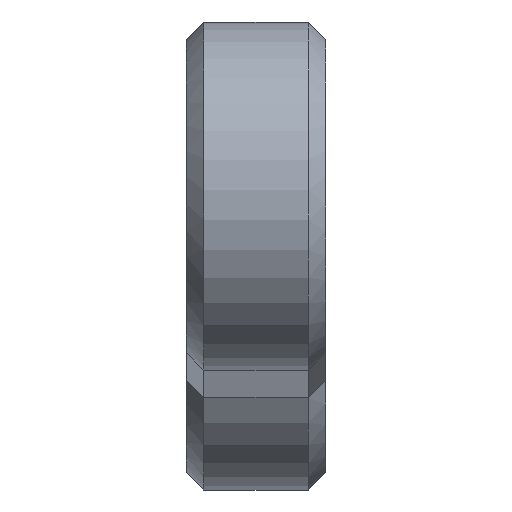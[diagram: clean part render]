
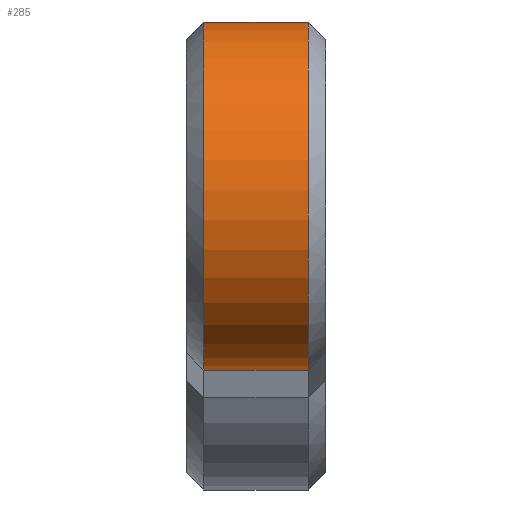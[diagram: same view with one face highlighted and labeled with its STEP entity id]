
A CAD part, top view. The second image highlights one B-rep face of the part: STEP entity #285.
In plain terms, the highlighted cylindrical face has radius 10 mm (diameter 20 mm), a partial arc.
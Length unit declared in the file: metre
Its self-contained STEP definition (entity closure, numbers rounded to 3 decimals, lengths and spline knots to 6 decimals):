
#24=LINE('',#479,#36);
#31=LINE('',#511,#43);
#36=VECTOR('',#383,1.);
#43=VECTOR('',#406,1.);
#54=CYLINDRICAL_SURFACE('',#331,0.01);
#106=ORIENTED_EDGE('',*,*,#159,.F.);
#107=ORIENTED_EDGE('',*,*,#145,.T.);
#108=ORIENTED_EDGE('',*,*,#142,.F.);
#109=ORIENTED_EDGE('',*,*,#158,.T.);
#142=EDGE_CURVE('',#175,#176,#196,.T.);
#145=EDGE_CURVE('',#177,#176,#24,.T.);
#158=EDGE_CURVE('',#175,#185,#31,.T.);
#159=EDGE_CURVE('',#177,#185,#201,.T.);
#175=VERTEX_POINT('',#464);
#176=VERTEX_POINT('',#471);
#177=VERTEX_POINT('',#480);
#185=VERTEX_POINT('',#510);
#196=CIRCLE('',#320,0.01);
#201=CIRCLE('',#332,0.01);
#224=EDGE_LOOP('',(#106,#107,#108,#109));
#254=FACE_BOUND('',#224,.T.);
#285=ADVANCED_FACE('',(#254),#54,.T.);
#320=AXIS2_PLACEMENT_3D('',#470,#376,#377);
#331=AXIS2_PLACEMENT_3D('',#512,#407,#408);
#332=AXIS2_PLACEMENT_3D('',#513,#409,#410);
#376=DIRECTION('',(-1.,0.,0.));
#377=DIRECTION('',(0.,-0.53,-0.848));
#383=DIRECTION('',(-1.,0.,0.));
#406=DIRECTION('',(1.,0.,0.));
#407=DIRECTION('',(-1.,0.,0.));
#408=DIRECTION('',(0.,0.999,-0.035));
#409=DIRECTION('',(1.,0.,0.));
#410=DIRECTION('',(0.,-0.999,0.035));
#464=CARTESIAN_POINT('',(0.102,0.019516,-0.550242));
#470=CARTESIAN_POINT('',(0.102,0.024816,-0.541762));
#471=CARTESIAN_POINT('',(0.102,0.02951,-0.550591));
#479=CARTESIAN_POINT('',(0.108,0.02951,-0.550591));
#480=CARTESIAN_POINT('',(0.108,0.02951,-0.550591));
#510=CARTESIAN_POINT('',(0.108,0.019516,-0.550242));
#511=CARTESIAN_POINT('',(0.102,0.019516,-0.550242));
#512=CARTESIAN_POINT('',(0.109,0.024816,-0.541762));
#513=CARTESIAN_POINT('',(0.108,0.024816,-0.541762));
